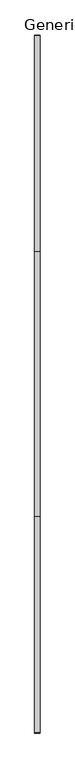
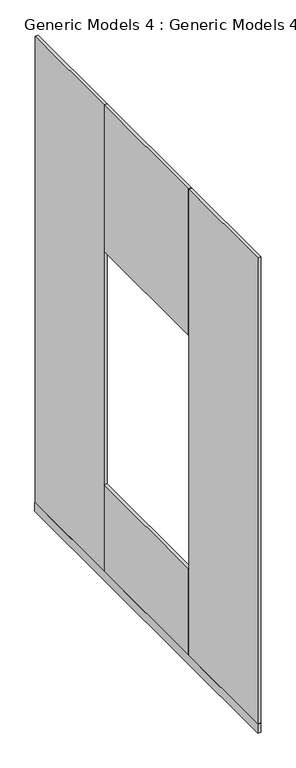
"""IFC4 building model written with IfcOpenShell, lengths in millimetres: proxy geometry, Generic Models 4 : Generic Models 4."""

from ifc_helpers import new_model, si_unit, frame, origin, origin_with_axes, place, context, project, spatial, polyline, outline, extrude, source, transform, mapped, element, save


def generic_models_4_generic_models_4_fcc66a8b(model_context):
    return source(origin(), model_context, "Body", "SweptSolid", [
        extrude(outline(polyline([(9877.9525098, 5787.7866664), (9877.9525098, 7787.7866664), (9893.9525098, 7787.7866664), (9893.9525098, 5787.7866664), (9877.9525098, 5787.7866664)])), origin_with_axes(), (0.0, 0.0, 1.0), 48.0),
        extrude(outline(polyline([(9877.9525098, 7168.2866664), (9877.9525098, 7785.7866664), (9893.9525098, 7785.7866664), (9893.9525098, 7168.2866664), (9877.9525098, 7168.2866664)])), frame((0.0, 0.0, 50.0), z_axis=(0.0, 0.0, 1.0), x_axis=(1.0, 0.0, 0.0)), (0.0, 0.0, 1.0), 2548.0),
        extrude(outline(polyline([(9877.9525098, 6409.2866664), (9877.9525098, 7166.2866664), (9893.9525098, 7166.2866664), (9893.9525098, 6409.2866664), (9877.9525098, 6409.2866664)])), frame((0.0, 0.0, 50.0), z_axis=(0.0, 0.0, 1.0), x_axis=(1.0, 0.0, 0.0)), (0.0, 0.0, 1.0), 472.0098741),
        extrude(outline(polyline([(9877.9525098, 6409.2866664), (9877.9525098, 7166.2866664), (9893.9525098, 7166.2866664), (9893.9525098, 6409.2866664), (9877.9525098, 6409.2866664)])), frame((0.0, 0.0, 1798.0098741), z_axis=(0.0, 0.0, 1.0), x_axis=(1.0, 0.0, 0.0)), (0.0, 0.0, 1.0), 799.9901259),
        extrude(outline(polyline([(9877.9525098, 5789.7866664), (9877.9525098, 6407.2866664), (9893.9525098, 6407.2866664), (9893.9525098, 5789.7866664), (9877.9525098, 5789.7866664)])), frame((0.0, 0.0, 50.0), z_axis=(0.0, 0.0, 1.0), x_axis=(1.0, 0.0, 0.0)), (0.0, 0.0, 1.0), 2548.0),
    ])


if __name__ == "__main__":
    model = new_model("IFC4")
    model_context = context("Model", 3, world=origin())
    ifc_project = project(units=[si_unit("LENGTHUNIT", "METRE", prefix="MILLI")], contexts=[model_context])
    site = spatial("IfcSite", under=ifc_project)
    building = spatial("IfcBuilding", under=site)
    placement = place(None, origin())
    generic_models_4_generic_models_4_shape = generic_models_4_generic_models_4_fcc66a8b(model_context)
    element("IfcBuildingElementProxy", 1, Name="Generic Models 4 : Generic Models 4", ObjectType="Generic Models 4 : Generic Models 4", at=placement, inside=building, context=model_context, shape_type="MappedRepresentation", body=[
        mapped(generic_models_4_generic_models_4_shape, transform((0.0, 0.0, 0.0), x_axis=(1.0, 0.0, 0.0), y_axis=(0.0, 1.0, 0.0), z_axis=(0.0, 0.0, 1.0))),
    ])
    save(model, "model.ifc")
